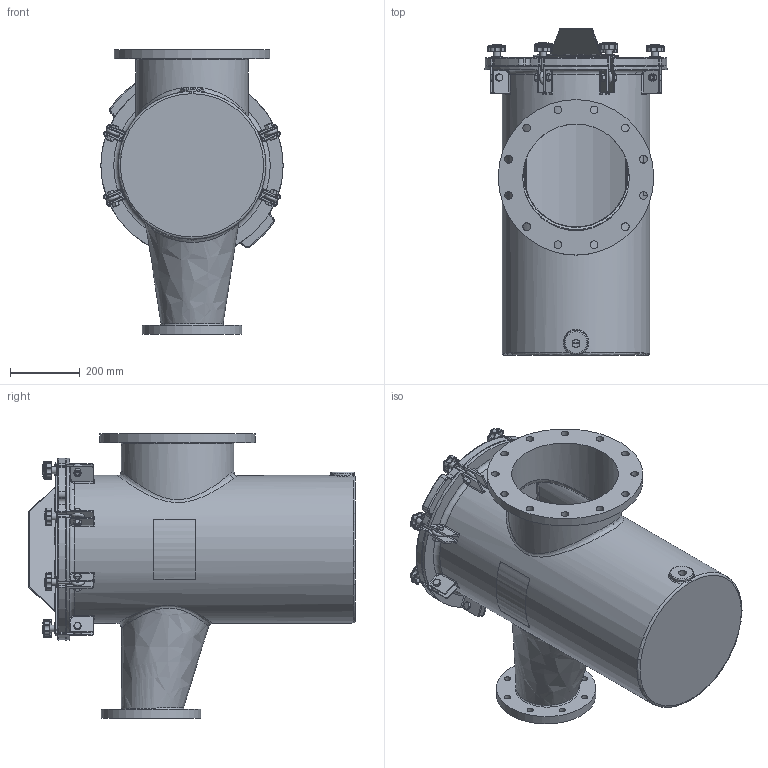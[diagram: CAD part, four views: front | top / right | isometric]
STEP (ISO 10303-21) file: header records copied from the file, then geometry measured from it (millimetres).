
FILE_DESCRIPTION(/* description */ ('300MM X 150MM FIBERGLASS STRAINER BODY'),/* implementation_level */ '2;1');
FILE_NAME(/* name */ 'E:\New folder (7)\Ready for delivery - Do not Disturb -Updated with metric Flange\Workspace\FG Reducing Strainer\Guardian FG Reducing H&L Strainer (Metric)\STRAINER H&L 300MM X 150MM.step',/* time_stamp */ '2016-10-19T04:15:27+06:00',/* author */ ('20076253'),/* organization */ (''),/* preprocessor_version */ 'ST-DEVELOPER v16.1',/* originating_system */ 'Autodesk Inventor 2016',/* authorisation */ '');
FILE_SCHEMA (('AUTOMOTIVE_DESIGN { 1 0 10303 214 3 1 1 }'));
Length unit declared in the file: inch
Products named in the file (24): NBFGBODY12X06MM; 150NBCVR20R2; 150NBGSK16R1; Perforated Basket 16in; Bride (Ring) 16in; Baffle 16in; Handle 16in; Bottom Strainer 16in; NBBSK10T316; BRACESTRCVR16_Welds; BRACE (BASE) FOR 16 BODY; BRACE (PROJ) FOR 16 BODY; Bumper; BRACESTRCVR16; Nut- 1_2  UNC; Bolt-1_2 x 1 1_2  UNC; EyeBolt; Washer; Knob M10; Securing Assembly For FG  with Brace; Securing Assembly For FG without Brace; Label for 16.625 inch (Right); Label for 16.625 inch (Left); STRAINER H&L 300MM X 150MM
Assembly tree (39 placements, depth 3):
  STRAINER H&L 300MM X 150MM
    NBFGBODY12X06MM
    150NBCVR20R2
    150NBGSK16R1
    NBBSK10T316
      Perforated Basket 16in
      Bride (Ring) 16in
      Baffle 16in
      Handle 16in
      Bottom Strainer 16in
    BRACESTRCVR16
      BRACESTRCVR16_Welds
      BRACE (BASE) FOR 16 BODY
      BRACE (PROJ) FOR 16 BODY
      Bumper  x6
    Securing Assembly For FG  with Brace  x2
      Nut- 1_2  UNC
      Bolt-1_2 x 1 1_2  UNC
      EyeBolt
      Washer
      Knob M10
    Securing Assembly For FG without Brace  x6
      Nut- 1_2  UNC
      Bolt-1_2 x 1 1_2  UNC
      EyeBolt
      Washer
      Knob M10
    Label for 16.625 inch (Right)
    Label for 16.625 inch (Left)
Bounding box: 520.7 x 933.45 x 812.8 mm (x, y, z)
Volume: 22948265.6 mm3; surface area: 5776027.9 mm2
Topology: 66 solids, 66 shells, 1804 faces, 4113 edges, 2430 vertices
Faces by surface type: cylinder 658, plane 500, cone 184, torus 166, sphere 158, bspline 138
Full cylindrical faces by diameter (mm): 3.175 x11, 6.35 x2, 8.382 x8, 9.525 x16, 10.592 x8, 12.7 x8, 15.875 x16, 17.78 x8, 19 x16, 19.05 x8, 22.098 x12, 22.809 x1, 31.75 x8, 68.263 x1, 284.48 x1, 295.275 x2, 298.45 x1, 300.99 x1, 304.8 x1, 320.675 x1, 406.4 x2, 409.575 x1, 415.925 x1, 422.275 x1, 444.5 x1, 457.2 x1, 463.55 x1
Entity records: 34061 total; most frequent: CARTESIAN_POINT 11270, DIRECTION 4715, ORIENTED_EDGE 4300, EDGE_CURVE 2150, AXIS2_PLACEMENT_3D 1934, VERTEX_POINT 1347, EDGE_LOOP 1167, ADVANCED_FACE 954
